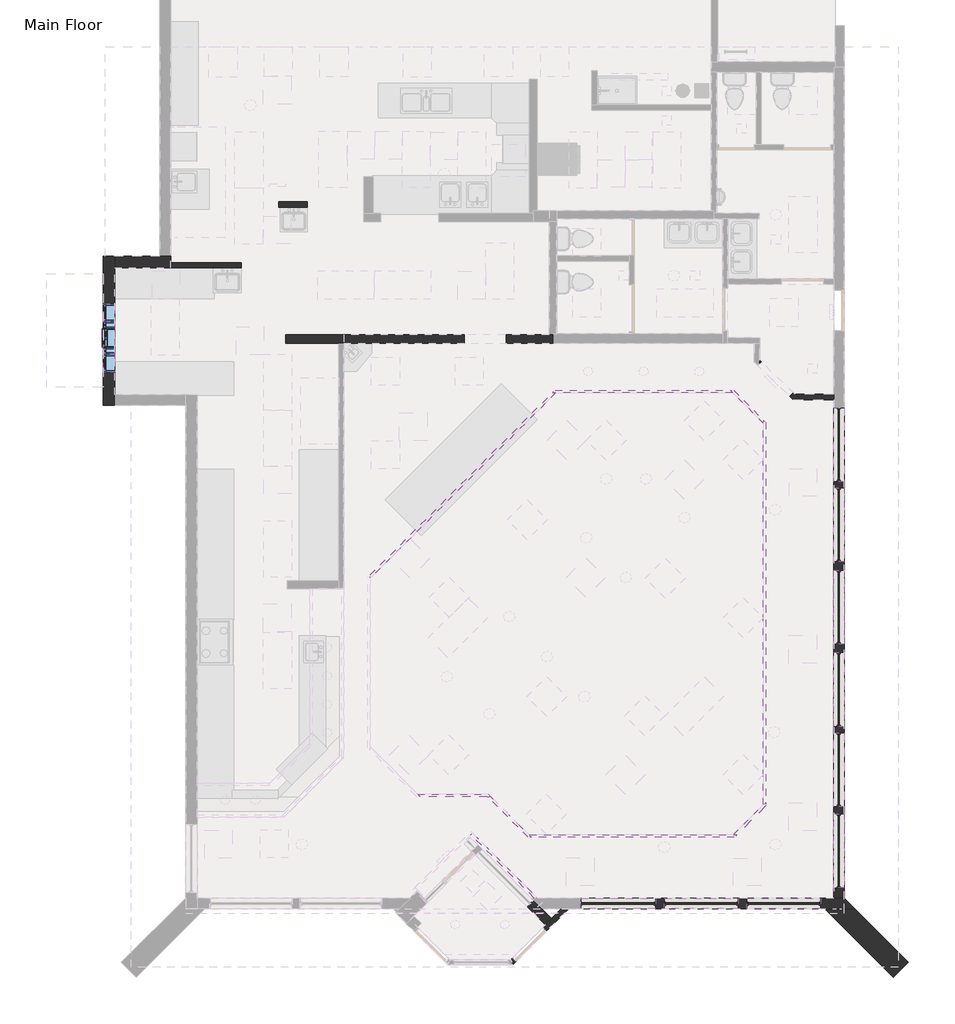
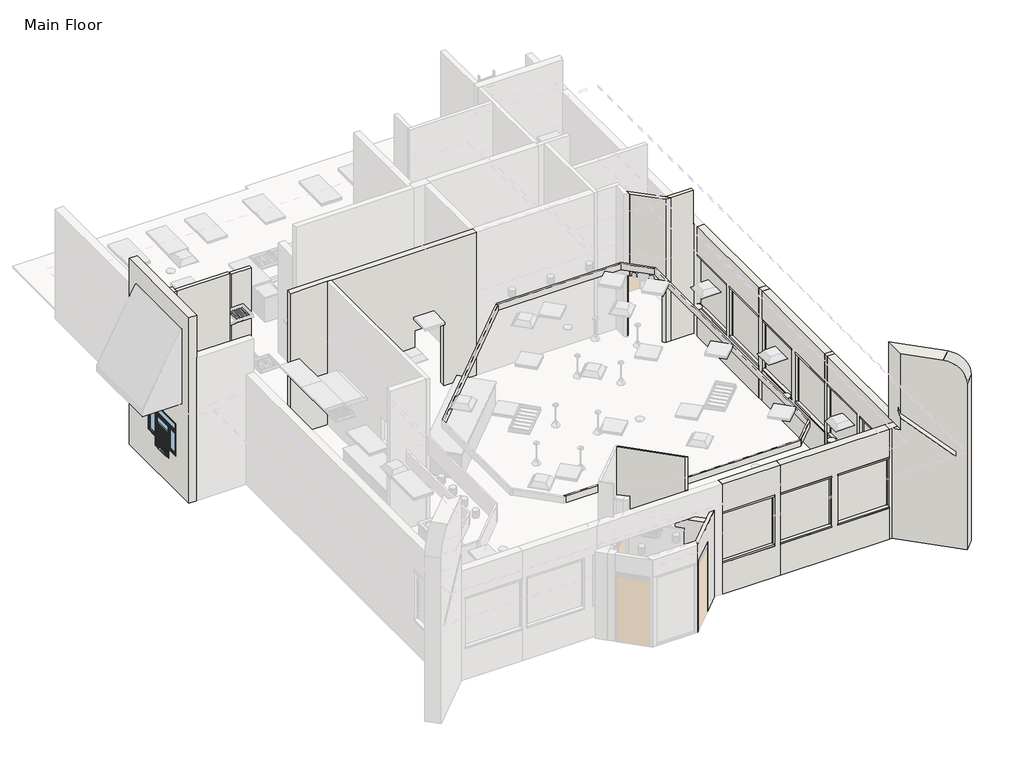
# One storey, part 2 of 6: 55 walls, 7 windows.
"""IFC4 building model written with IfcOpenShell, lengths in millimetres."""

from ifc_helpers import new_model, si_unit, frame, origin, origin_with_axes, place, context, project, spatial, polyline, circle_curve, outline, extrude, faceted_brep, transform, mapped, element, save
from ifc_brep_helpers import plane_surface, cylinder_surface, advanced_brep
from components import default_1_96466d02, default_1_f6c69324, default_1_ff7a0cfc, default_1_48e93cfa, default_1_f4984165

model = new_model("IFC4")

# Units and contexts
model_context = context("Model", 3, world=origin())
ifc_project = project(units=[si_unit("LENGTHUNIT", "METRE", prefix="MILLI")], contexts=[model_context])

# Site, building, storey
site = spatial("IfcSite", under=ifc_project)
building = spatial("IfcBuilding", under=site)
storey = spatial("IfcBuildingStorey", under=building, Name="Main Floor", Elevation=0.0)

# Walls
placement = place(None, origin())
element("IfcWall", 1, ObjectType="Planitar - Generic 9 1/2\"", at=placement, inside=storey, context=model_context, shape_type="Brep", body=[
    faceted_brep([(-7058.9666136, -593.9000796, 0.0), (-7058.9666136, 2619.1999204, 0.0), (-7058.9666136, 2619.1999204, 6096.0), (-7058.9666136, -593.9000796, 6096.0), (-7058.9666136, 499.4898292, 1117.6), (-7058.9666136, 118.4898292, 1117.6), (-7058.9666136, 118.4900166, 2184.4040515), (-7058.9666136, 1591.6900166, 2184.4040515), (-7058.9666136, 1591.6898292, 1117.6), (-7058.9666136, 1210.6898292, 1117.6), (-7058.9666136, 1210.6898292, 812.8), (-7058.9666136, 499.4898292, 812.8), (-7300.2666136, 2619.1999204, 0.0), (-7300.2666136, -593.9000796, 0.0), (-7300.2666136, -593.9000796, 6096.0), (-7300.2666136, 2619.1999204, 6096.0), (-7300.2666136, 118.4898292, 1117.6), (-7300.2666136, 499.4898292, 1117.6), (-7300.2666136, 499.4898292, 812.8), (-7300.2666136, 1210.6898292, 812.8), (-7300.2666136, 1210.6898292, 1117.6), (-7300.2666136, 1591.6898292, 1117.6), (-7300.2666136, 1591.6900166, 2184.4040515), (-7300.2666136, 118.4900166, 2184.4040515)], [[[0, 1, 2, 3], [4, 5, 6, 7, 8, 9, 10, 11]], [[12, 13, 14, 15], [16, 17, 18, 19, 20, 21, 22, 23]], [[1, 0, 13, 12]], [[2, 1, 12, 15]], [[3, 2, 15, 14]], [[0, 3, 14, 13]], [[10, 19, 18, 11]], [[5, 16, 23, 6]], [[16, 5, 4, 17]], [[21, 8, 7, 22]], [[8, 21, 20, 9]], [[6, 23, 22, 7]], [[19, 10, 9, 20]], [[11, 18, 17, 4]]]),
])
element("IfcWall", 2, ObjectType="Planitar - Generic 10\"", at=placement, inside=storey, context=model_context, shape_type="Brep", body=[
    faceted_brep([(-7058.9666136, 2365.1999204, 0.0), (-5846.1166136, 2365.1999204, 0.0), (-5846.1166136, 2365.1999204, 3606.8), (-5966.7666136, 2365.1999204, 3606.8), (-5966.7666136, 2365.1999204, 4699.0), (-7058.9666136, 2365.1999204, 4699.0), (-7058.9666136, 2619.1999204, 0.0), (-7058.9666136, 2619.1999204, 4699.0), (-6087.4166136, 2619.1999204, 4699.0), (-5966.7666136, 2619.1999204, 4699.0), (-5966.7666136, 2619.1999204, 3606.8), (-5846.1166136, 2619.1999204, 3606.8), (-5846.1166136, 2619.1999204, 0.0), (-6087.4166136, 2619.1999204, 0.0), (-5846.1166136, 2479.4999204, 0.0), (-5966.7666136, 2479.4999204, 4699.0), (-5966.7666136, 2479.4999204, 3606.8), (-5846.1166136, 2479.4999204, 3606.8)], [[[0, 1, 2, 3, 4, 5]], [[6, 7, 8, 9, 10, 11, 12, 13]], [[1, 0, 6, 13, 12, 14]], [[5, 4, 15, 9, 8, 7]], [[0, 5, 7, 6]], [[4, 3, 16, 10, 9, 15]], [[10, 16, 3, 2, 17, 11]], [[2, 1, 14, 12, 11, 17]]]),
])
element("IfcWall", 3, ObjectType="Planitar - Generic 9\"", at=placement, inside=storey, context=model_context, shape_type="Brep", body=[
    faceted_brep([(8676.3333864, -11229.6312018, 0.0), (8174.6833864, -11229.6312018, 0.0), (8174.6833864, -11229.6312018, 1016.0), (8174.6833864, -11229.6312018, 2692.4), (8174.6833864, -11229.6312018, 3606.8), (8676.3333864, -11229.6312018, 3606.8), (8904.9333864, -11458.2312018, 0.0), (8904.9333864, -11458.2312018, 3606.8), (8258.3549457, -11458.2312018, 3606.8), (8174.6833864, -11458.2312018, 3606.8), (8174.6833864, -11458.2312018, 0.0), (8258.3549457, -11458.2312018, 0.0)], [[[0, 1, 2, 3, 4, 5]], [[6, 7, 8, 9, 10, 11]], [[1, 0, 6, 11, 10]], [[5, 4, 9, 8, 7]], [[1, 10, 9, 4, 3, 2]], [[0, 5, 7, 6]]]),
])
element("IfcWall", 4, ObjectType="Planitar - Generic 7 1/2\"", at=placement, inside=storey, context=model_context, shape_type="Brep", body=[
    faceted_brep([(2366.4362433, -11671.0761427, 0.0), (2153.5913024, -11458.2312018, 0.0), (1971.9393815, -11276.5792809, 0.0), (1971.9393815, -11276.5792809, 50.8), (1971.9393815, -11276.5792809, 2489.2), (1971.9393815, -11276.5792809, 2540.0), (1924.9913024, -11229.6312018, 2540.0), (1924.9913024, -11229.6312018, 2844.8), (2153.5913024, -11458.2312018, 2844.8), (2366.4362433, -11671.0761427, 2844.8), (2231.7324015, -11805.7799845, 0.0), (2231.7324015, -11805.7799845, 2844.8), (1655.5836188, -11229.6312018, 2844.8), (1655.5836188, -11229.6312018, 2540.0), (1837.2355397, -11411.2831227, 2540.0), (1837.2355397, -11411.2831227, 2489.2), (1837.2355397, -11411.2831227, 50.8), (1837.2355397, -11411.2831227, 0.0)], [[[0, 1, 2, 3, 4, 5, 6, 7, 8, 9]], [[10, 11, 12, 13, 14, 15, 16, 17]], [[2, 1, 0, 10, 17]], [[9, 8, 7, 12, 11]], [[0, 9, 11, 10]], [[2, 17, 16, 15, 14, 5, 4, 3]], [[13, 6, 5, 14]], [[7, 6, 13, 12]]]),
])
element("IfcWall", 5, ObjectType="Planitar - Generic 7\"", at=placement, inside=storey, context=model_context, shape_type="Brep", body=[
    faceted_brep([(-3363.2666136, 745.9499204, 0.0), (-2226.6166136, 745.9499204, 0.0), (-2112.3166136, 745.9499204, 0.0), (478.4833864, 745.9499204, 0.0), (478.4833864, 745.9499204, 2133.6), (1392.8833864, 745.9499204, 2133.6), (1392.8833864, 745.9499204, 0.0), (2396.1833864, 745.9499204, 0.0), (2396.1833864, 745.9499204, 4699.0), (-2112.3166136, 745.9499204, 4699.0), (-2226.6166136, 745.9499204, 4699.0), (-3363.2666136, 745.9499204, 4699.0), (-1483.6666136, 745.9499204, 1752.6), (-924.8666136, 745.9499204, 1752.6), (-924.8666136, 745.9499204, 1295.4), (-1483.6666136, 745.9499204, 1295.4), (478.4833864, 923.7499204, 2133.6), (478.4833864, 923.7499204, 0.0), (-3363.2666136, 923.7499204, 0.0), (-3363.2666136, 923.7499204, 4699.0), (2313.6333864, 923.7499204, 4699.0), (2396.1833864, 923.7499204, 4699.0), (2396.1833864, 923.7499204, 0.0), (2313.6333864, 923.7499204, 0.0), (1392.8833864, 923.7499204, 0.0), (1392.8833864, 923.7499204, 2133.6), (-1483.6666136, 923.7499204, 1752.6), (-1483.6666136, 923.7499204, 1295.4), (-924.8666136, 923.7499204, 1295.4), (-924.8666136, 923.7499204, 1752.6)], [[[0, 1, 2, 3, 4, 5, 6, 7, 8, 9, 10, 11], [12, 13, 14, 15]], [[16, 17, 18, 19, 20, 21, 22, 23, 24, 25], [26, 27, 28, 29]], [[18, 17, 3, 2, 1, 0]], [[24, 23, 22, 7, 6]], [[8, 7, 22, 21]], [[11, 10, 9, 8, 21, 20, 19]], [[0, 11, 19, 18]], [[6, 5, 25, 24]], [[4, 3, 17, 16]], [[5, 4, 16, 25]], [[27, 26, 12, 15]], [[28, 27, 15, 14]], [[29, 28, 14, 13]], [[26, 29, 13, 12]]]),
])
element("IfcWall", 6, ObjectType="Planitar - Generic 4 1/2\"", at=placement, inside=storey, context=model_context, shape_type="Brep", body=[
    faceted_brep([(7573.8358864, -473.2500796, 4699.0), (6853.8833864, 218.1328404, 4699.0), (6853.8833864, 218.1328404, 2032.0), (7504.7650216, -406.9201256, 2032.0), (7504.7650216, -406.9201256, 0.0), (7573.8358864, -473.2500796, 0.0), (6853.8833864, 376.6026708, 4699.0), (7619.8309189, -358.9500796, 4699.0), (7738.8540656, -473.2500796, 4699.0), (7738.8540656, -473.2500796, 0.0), (7619.8309189, -358.9500796, 0.0), (7583.9350262, -324.4786289, 0.0), (7583.9350262, -324.4786289, 2032.0), (6887.7623875, 344.0680763, 2032.0), (6887.7623875, 344.0680763, 0.0), (6853.8833864, 376.6026708, 0.0), (6853.8833864, 308.7891147, 0.0), (6853.8833864, 308.7891147, 2032.0)], [[[0, 1, 2, 3, 4, 5]], [[6, 7, 8, 9, 10, 11, 12, 13, 14, 15]], [[9, 5, 4, 11, 10]], [[15, 14, 16]], [[1, 0, 8, 7, 6]], [[1, 6, 15, 16, 17, 2]], [[0, 5, 9, 8]], [[13, 17, 16, 14]], [[3, 12, 11, 4]], [[17, 13, 12, 3, 2]]]),
])
element("IfcWall", 7, ObjectType="Planitar - Generic 4 1/2\"", at=placement, inside=storey, context=model_context, shape_type="Brep", body=[
    faceted_brep([(7738.8540656, -473.2500796, 0.0), (8447.7333864, -473.2500796, 0.0), (8447.7333864, -473.2500796, 3606.8), (8435.0333864, -473.2500796, 3606.8), (8435.0333864, -473.2500796, 4699.0), (7738.8540656, -473.2500796, 4699.0), (7619.8309189, -358.9500796, 0.0), (7619.8309189, -358.9500796, 4699.0), (8435.0333864, -358.9500796, 4699.0), (8435.0333864, -358.9500796, 3606.8), (8447.7333864, -358.9500796, 3606.8), (8447.7333864, -358.9500796, 0.0)], [[[0, 1, 2, 3, 4, 5]], [[6, 7, 8, 9, 10, 11]], [[1, 0, 6, 11]], [[5, 4, 8, 7]], [[0, 5, 7, 6]], [[9, 3, 2, 10]], [[2, 1, 11, 10]], [[4, 3, 9, 8]]]),
])
element("IfcWall", 8, ObjectType="Planitar - Generic 4 1/2\"", at=placement, inside=storey, context=model_context, shape_type="Brep", body=[
    faceted_brep([(-5846.1166136, 2365.1999204, 0.0), (-4322.1166136, 2365.1999204, 0.0), (-4322.1166136, 2365.1999204, 4699.0), (-5966.7666136, 2365.1999204, 4699.0), (-5966.7666136, 2365.1999204, 3606.8), (-5846.1166136, 2365.1999204, 3606.8), (-5846.1166136, 2479.4999204, 0.0), (-5846.1166136, 2479.4999204, 3606.8), (-5966.7666136, 2479.4999204, 3606.8), (-5966.7666136, 2479.4999204, 4699.0), (-5846.1166136, 2479.4999204, 4699.0), (-4322.1166136, 2479.4999204, 4699.0), (-4322.1166136, 2479.4999204, 0.0)], [[[0, 1, 2, 3, 4, 5]], [[6, 7, 8, 9, 10, 11, 12]], [[1, 0, 6, 12]], [[2, 1, 12, 11]], [[3, 2, 11, 10, 9]], [[4, 3, 9, 8]], [[4, 8, 7, 5]], [[0, 5, 7, 6]]]),
])
element("IfcWall", 9, ObjectType="Planitar - Generic 4 1/2\"", at=placement, inside=storey, context=model_context, shape_type="SweptSolid", body=[
    extrude(outline(polyline([(-2899.7166136, 3679.6499204), (-3522.0166136, 3679.6499204), (-3522.0166136, 3793.9499204), (-2899.7166136, 3793.9499204), (-2899.7166136, 3679.6499204)])), origin_with_axes(), (0.0, 0.0, 1.0), 3606.8),
])
element("IfcWall", 10, ObjectType="Planitar - Generic 1' - 6\"", at=placement, inside=storey, context=model_context, shape_type="AdvancedBrep", body=[
    advanced_brep(
    [(8258.3549457, -11458.2312018, 0.0), (9737.0832662, -12936.9595223, 0.0), (9737.0832662, -12936.9595223, 5435.6), (9270.1099479, -12469.986204, 6096.0), (8435.0333864, -11634.9096425, 6096.0), (8435.0333864, -11634.9096425, 4147.2761444), (9522.5238236, -12722.4000796, 3168.0953567), (9522.5238236, -12722.4000796, 2997.2), (8435.0333864, -11634.9096425, 3976.3807877), (8435.0333864, -11634.9096425, 3606.8), (8258.3549457, -11458.2312018, 3606.8), (10060.3724866, -12613.6703019, 0.0), (8904.9333864, -11458.2312018, 0.0), (8904.9333864, -11458.2312018, 3606.8), (8676.3333864, -11229.6312018, 3606.8), (8435.0333864, -10988.3312018, 3606.8), (8435.0333864, -10988.3312018, 6096.0), (8676.3333864, -11229.6312018, 6096.0), (9593.3991683, -12146.6969836, 6096.0), (10060.3724866, -12613.6703019, 5435.6), (8676.3333864, -11229.6312018, 4050.2042133), (9845.8130439, -12399.1108593, 2997.2), (9845.8130439, -12399.1108593, 3168.0953567), (8676.3333864, -11229.6312018, 4221.09957), (8435.0333864, -11216.9312018, 6096.0), (8435.0333864, -11458.2312018, 6096.0), (8581.6441661, -11458.2312018, 4135.4627703), (9845.8130439, -12722.4000796, 2997.2), (8676.3333864, -11458.2312018, 4050.2042133), (8435.0333864, -11458.2312018, 4135.4627703), (8581.6441661, -11458.2312018, 4306.358127), (8676.3333864, -11458.2312018, 4221.09957), (9845.8130439, -12722.4000796, 3168.0953567), (8435.0333864, -11458.2312018, 4306.358127), (8435.0333864, -11458.2312018, 3606.8), (8435.0333864, -11216.9312018, 3606.8)],
    [
        (0, 1),
        (1, 2),
        (2, 3, circle_curve(frame((9270.1099479, -12469.986204, 5435.6), z_axis=(-0.7071067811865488, -0.7071067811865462, 0.0), x_axis=(-0.7071067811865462, 0.7071067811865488, 0.0)), 660.4)),
        (3, 4),
        (4, 5),
        (5, 6),
        (6, 7),
        (7, 8),
        (8, 9),
        (9, 10),
        (10, 0),
        (11, 12),
        (12, 13),
        (13, 14),
        (14, 15),
        (15, 16),
        (16, 17),
        (17, 18),
        (18, 19, circle_curve(frame((9593.3991683, -12146.6969836, 5435.6), z_axis=(0.7071067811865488, 0.7071067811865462, 0.0), x_axis=(-0.7071067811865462, 0.7071067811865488, 0.0)), 660.4)),
        (19, 11),
        (20, 21),
        (21, 22),
        (22, 23),
        (23, 20),
        (0, 12),
        (11, 1),
        (19, 2),
        (3, 18),
        (16, 24),
        (24, 25),
        (25, 4),
        (26, 27),
        (27, 21),
        (20, 28),
        (28, 26),
        (26, 29),
        (29, 8),
        (7, 27),
        (30, 31),
        (31, 23),
        (22, 32),
        (32, 30),
        (32, 6),
        (5, 33),
        (33, 30),
        (32, 27),
        (31, 28),
        (9, 34),
        (34, 10),
        (34, 13),
        (15, 35),
        (35, 34),
        (29, 33),
    ],
    [
        plane_surface(frame((8299.3495559, -11499.225812, 0.0), z_axis=(-0.7071067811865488, -0.7071067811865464, 0.0), x_axis=(0.7071067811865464, -0.7071067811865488, 0.0))),
        plane_surface(frame((8622.6387762, -11175.9365916, 0.0), z_axis=(0.7071067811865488, 0.7071067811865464, 0.0), x_axis=(-0.7071067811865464, 0.7071067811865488, 0.0))),
        plane_surface(frame((8299.3495559, -11499.225812, 0.0), z_axis=(0.0, 0.0, -1.0000000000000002), x_axis=(0.7071067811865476, 0.7071067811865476, 0.0))),
        plane_surface(frame((9737.0832662, -12936.9595223, 0.0), z_axis=(0.7071067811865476, -0.7071067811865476, 0.0), x_axis=(0.7071067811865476, 0.7071067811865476, 0.0))),
        plane_surface(frame((9270.1099479, -12469.986204, 6096.0), z_axis=(0.0, 0.0, 1.0), x_axis=(0.7071067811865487, 0.7071067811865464, 0.0))),
        cylinder_surface(frame((9593.3991683, -12146.6969836, 5435.6), z_axis=(-0.7071067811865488, -0.7071067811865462, 0.0), x_axis=(-0.7071067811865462, 0.7071067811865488, 0.0)), 660.4),
        plane_surface(frame((9845.8130439, -12722.4000796, 2997.2), z_axis=(0.669130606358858, 0.0, 0.7431448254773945), x_axis=(0.0, 1.0, 0.0))),
        plane_surface(frame((-6697.0166136, -12722.4000796, 2997.2), z_axis=(0.0, -0.669130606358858, 0.7431448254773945), x_axis=(1.0, 0.0, 0.0))),
        plane_surface(frame((9845.8130439, -12722.4000796, 3168.0953567), z_axis=(-0.669130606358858, 0.0, -0.7431448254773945), x_axis=(0.0, 1.0, 0.0))),
        plane_surface(frame((-6697.0166136, -12722.4000796, 3168.0953567), z_axis=(0.0, 0.669130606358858, -0.7431448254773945), x_axis=(1.0, 0.0, 0.0))),
        plane_surface(frame((1574.3982152, -12722.4000796, 2997.2), z_axis=(0.0, 1.0, 0.0), x_axis=(1.0, 0.0, 0.0))),
        plane_surface(frame((9845.8130439, -43.8048611, 2997.2), z_axis=(-1.0, 0.0, 0.0), x_axis=(0.0, 1.0, 0.0))),
        plane_surface(frame((8676.3333864, 11465.3107, 0.0), z_axis=(1.0, 0.0, 0.0), x_axis=(0.0, -1.0, 0.0))),
        plane_surface(frame((8299.3495559, -11499.225812, 3606.8), z_axis=(0.0, 0.0, 1.0), x_axis=(1.0, 0.0, 0.0))),
        plane_surface(frame((8676.3333864, -11458.2312018, 0.0), z_axis=(0.0, 1.0, 0.0), x_axis=(1.0, 0.0, 0.0))),
        plane_surface(frame((8435.0333864, 11788.5999204, 3606.8), z_axis=(-1.0, 0.0, 0.0), x_axis=(0.0, -1.0, 0.0))),
        plane_surface(frame((8299.3495559, -11499.225812, 3606.8), z_axis=(0.0, 0.0, -1.0), x_axis=(1.0, 0.0, 0.0))),
        plane_surface(frame((8676.3333864, -11458.2312018, 0.0), z_axis=(0.0, -1.0, 0.0), x_axis=(-1.0, 0.0, 0.0))),
    ],
    [
        (0, [[1, 2, 3, 4, 5, 6, 7, 8, 9, 10, 11]]),
        (1, [[12, 13, 14, 15, 16, 17, 18, 19, 20], [21, 22, 23, 24]]),
        (2, [[-1, 25, -12, 26]]),
        (3, [[-2, -26, -20, 27]]),
        (4, [[-4, 28, -18, -17, 29, 30, 31]]),
        (5, [[-3, -27, -19, -28]]),
        (6, [[32, 33, -21, 34, 35]]),
        (7, [[-32, 36, 37, -8, 38]]),
        (8, [[39, 40, -23, 41, 42]]),
        (9, [[-42, 43, -6, 44, 45]]),
        (10, [[46, -38, -7, -43]]),
        (11, [[-46, -41, -22, -33]]),
        (12, [[47, -34, -24, -40]]),
        (13, [[-10, 48, 49]]),
        (14, [[-25, -11, -49, 50, -13]]),
        (15, [[51, 52, -48, -9, -37, 53, -44, -5, -31, -30, -29, -16]]),
        (16, [[-15, -14, -50, -52, -51]]),
        (17, [[-35, -47, -39, -45, -53, -36]]),
    ],
),
])
element("IfcWall", 11, ObjectType="Planitar - Generic 4 1/2\"", at=placement, inside=storey, context=model_context, shape_type="Brep", body=[
    faceted_brep([(1600.8623064, -12436.6500796, 2844.8), (2231.7324015, -11805.7799845, 2844.8), (2366.4362433, -11671.0761427, 2844.8), (2579.2811842, -11458.2312018, 2844.8), (2579.2811842, -11458.2312018, 0.0), (2366.4362433, -11671.0761427, 0.0), (2231.7324015, -11805.7799845, 0.0), (2173.3607367, -11864.1516493, 0.0), (2173.3607367, -11864.1516493, 2286.0), (1600.8623064, -12436.6500796, 2286.0), (1526.782296, -12510.73009, 2286.0), (1526.782296, -12510.73009, 0.0), (1486.5623064, -12550.9500796, 0.0), (1486.5623064, -12550.9500796, 2286.0), (2740.9257944, -11458.2312018, 2844.8), (1533.9069166, -12665.2500796, 2844.8), (1533.9069166, -12665.2500796, 2286.0), (1533.9069166, -12665.2500796, 0.0), (1607.6046011, -12591.5523951, 0.0), (1607.6046011, -12591.5523951, 2286.0), (2254.1830418, -11944.9739544, 2286.0), (2254.1830418, -11944.9739544, 0.0), (2740.9257944, -11458.2312018, 0.0), (1567.297999, -12551.245793, 2286.0)], [[[0, 1, 2, 3, 4, 5, 6, 7, 8, 9]], [[10, 11, 12, 13]], [[14, 15, 16, 17, 18, 19, 20, 21, 22]], [[4, 22, 21, 7, 6, 5]], [[17, 12, 11, 18]], [[3, 2, 1, 0, 15, 14]], [[13, 16, 23, 10]], [[12, 17, 16, 13]], [[0, 9, 23, 16, 15]], [[4, 3, 14, 22]], [[7, 21, 20, 8]], [[10, 23, 19, 18, 11]], [[19, 23, 9, 8, 20]]]),
])
element("IfcWall", 12, ObjectType="Planitar - Generic 2\"", at=placement, inside=storey, context=model_context, shape_type="Brep", body=[
    faceted_brep([(-468.7505987, -9035.0045545, 2755.9), (983.4073523, -9035.0045545, 2755.9), (1055.2494013, -9035.0045545, 2755.9), (1055.2494013, -9035.0045545, 2959.1), (983.4073523, -9035.0045545, 2959.1), (-468.7505987, -9035.0045545, 2959.1), (-519.5505987, -8984.2045545, 2755.9), (-519.5505987, -8984.2045545, 2959.1), (1004.4494013, -8984.2045545, 2959.1), (1004.4494013, -8984.2045545, 2755.9)], [[[0, 1, 2, 3, 4, 5]], [[6, 7, 8, 9]], [[2, 1, 0, 6, 9]], [[5, 4, 3, 8, 7]], [[0, 5, 7, 6]], [[3, 2, 9, 8]]]),
])
element("IfcWall", 13, ObjectType="Planitar - Generic 2\"", at=placement, inside=storey, context=model_context, shape_type="Brep", body=[
    faceted_brep([(983.4073523, -9035.0045545, 2755.9), (1863.4724522, -9915.0696543, 2755.9), (1863.4724522, -9915.0696543, 2959.1), (983.4073523, -9035.0045545, 2959.1), (1055.2494013, -9035.0045545, 2755.9), (1055.2494013, -9035.0045545, 2959.1), (1884.5145011, -9864.2696543, 2959.1), (1935.3145011, -9915.0696543, 2959.1), (1935.3145011, -9915.0696543, 2755.9), (1884.5145011, -9864.2696543, 2755.9)], [[[0, 1, 2, 3]], [[4, 5, 6, 7, 8, 9]], [[1, 0, 4, 9, 8]], [[3, 2, 7, 6, 5]], [[0, 3, 5, 4]], [[2, 1, 8, 7]]]),
])
element("IfcWall", 14, ObjectType="Planitar - Generic 2\"", at=placement, inside=storey, context=model_context, shape_type="Brep", body=[
    faceted_brep([(1935.3145011, -9915.0696543, 2755.9), (6310.4058607, -9915.0696543, 2755.9), (6310.4058607, -9915.0696543, 2959.1), (1935.3145011, -9915.0696543, 2959.1), (1884.5145011, -9864.2696543, 2755.9), (1884.5145011, -9864.2696543, 2959.1), (6289.3638117, -9864.2696543, 2959.1), (6361.2058607, -9864.2696543, 2959.1), (6361.2058607, -9864.2696543, 2755.9), (6289.3638117, -9864.2696543, 2755.9)], [[[0, 1, 2, 3]], [[4, 5, 6, 7, 8, 9]], [[1, 0, 4, 9, 8]], [[3, 2, 7, 6, 5]], [[0, 3, 5, 4]], [[2, 1, 8, 7]]]),
])
element("IfcWall", 15, ObjectType="Planitar - Generic 2\"", at=placement, inside=storey, context=model_context, shape_type="Brep", body=[
    faceted_brep([(6361.2058607, -9864.2696543, 2755.9), (6987.2333864, -9238.2421286, 2755.9), (6987.2333864, -9238.2421286, 2959.1), (6361.2058607, -9864.2696543, 2959.1), (6289.3638117, -9864.2696543, 2755.9), (6289.3638117, -9864.2696543, 2959.1), (6936.4333864, -9217.2000796, 2959.1), (6987.2333864, -9166.4000796, 2959.1), (6987.2333864, -9166.4000796, 2755.9), (6936.4333864, -9217.2000796, 2755.9)], [[[0, 1, 2, 3]], [[4, 5, 6, 7, 8, 9]], [[1, 0, 4, 9, 8]], [[3, 2, 7, 6, 5]], [[0, 3, 5, 4]], [[2, 1, 8, 7]]]),
])
element("IfcWall", 16, ObjectType="Planitar - Generic 2\"", at=placement, inside=storey, context=model_context, shape_type="Brep", body=[
    faceted_brep([(6987.2333864, -9166.4000796, 2755.9), (6987.2333864, -966.5580307, 2755.9), (6987.2333864, -966.5580307, 2959.1), (6987.2333864, -9166.4000796, 2959.1), (6936.4333864, -9217.2000796, 2755.9), (6936.4333864, -9217.2000796, 2959.1), (6936.4333864, -987.6000796, 2959.1), (6936.4333864, -915.7580307, 2959.1), (6936.4333864, -915.7580307, 2755.9), (6936.4333864, -987.6000796, 2755.9)], [[[0, 1, 2, 3]], [[4, 5, 6, 7, 8, 9]], [[1, 0, 4, 9, 8]], [[3, 2, 7, 6, 5]], [[0, 3, 5, 4]], [[2, 1, 8, 7]]]),
])
element("IfcWall", 17, ObjectType="Planitar - Generic 2\"", at=placement, inside=storey, context=model_context, shape_type="Brep", body=[
    faceted_brep([(6936.4333864, -915.7580307, 2755.9), (6292.9364824, -272.2611267, 2755.9), (6292.9364824, -272.2611267, 2959.1), (6936.4333864, -915.7580307, 2959.1), (6936.4333864, -987.6000796, 2755.9), (6936.4333864, -987.6000796, 2959.1), (6271.8944335, -323.0611267, 2959.1), (6221.0944335, -272.2611267, 2959.1), (6221.0944335, -272.2611267, 2755.9), (6271.8944335, -323.0611267, 2755.9)], [[[0, 1, 2, 3]], [[4, 5, 6, 7, 8, 9]], [[1, 0, 4, 9, 8]], [[3, 2, 7, 6, 5]], [[0, 3, 5, 4]], [[2, 1, 8, 7]]]),
])
element("IfcWall", 18, ObjectType="Planitar - Generic 2\"", at=placement, inside=storey, context=model_context, shape_type="Brep", body=[
    faceted_brep([(6221.0944335, -272.2611267, 2755.9), (2440.8523845, -272.2611267, 2755.9), (2440.8523845, -272.2611267, 2959.1), (6221.0944335, -272.2611267, 2959.1), (6271.8944335, -323.0611267, 2755.9), (6271.8944335, -323.0611267, 2959.1), (2461.8944335, -323.0611267, 2959.1), (2390.0523845, -323.0611267, 2959.1), (2390.0523845, -323.0611267, 2755.9), (2461.8944335, -323.0611267, 2755.9)], [[[0, 1, 2, 3]], [[4, 5, 6, 7, 8, 9]], [[1, 0, 4, 9, 8]], [[3, 2, 7, 6, 5]], [[0, 3, 5, 4]], [[2, 1, 8, 7]]]),
])
element("IfcWall", 19, ObjectType="Planitar - Generic 2\"", at=placement, inside=storey, context=model_context, shape_type="SweptSolid", body=[
    extrude(outline(polyline([(-1543.2997965, -4256.4133077), (2390.0523845, -323.0611267), (2461.8944335, -323.0611267), (-1543.2997965, -4328.2553567), (-1543.2997965, -4256.4133077)])), frame((0.0, 0.0, 2755.9), z_axis=(0.0, 0.0, 1.0), x_axis=(1.0, 0.0, 0.0)), (0.0, 0.0, 1.0), 203.2),
])
element("IfcWall", 20, ObjectType="Planitar - Generic 2\"", at=placement, inside=storey, context=model_context, shape_type="Brep", body=[
    faceted_brep([(628.4375803, -9861.2354307, 2540.0), (1996.8333514, -11229.6312018, 2540.0), (1996.8333514, -11229.6312018, 3606.8), (1984.1333514, -11216.9312018, 3606.8), (1984.1333514, -11216.9312018, 4699.0), (628.4375803, -9861.2354307, 4699.0), (664.3586048, -9825.3144062, 2540.0), (664.3586048, -9825.3144062, 4699.0), (2055.9754004, -11216.9312018, 4699.0), (2055.9754004, -11216.9312018, 3606.8), (2068.6754004, -11229.6312018, 3606.8), (2068.6754004, -11229.6312018, 2540.0)], [[[0, 1, 2, 3, 4, 5]], [[6, 7, 8, 9, 10, 11]], [[1, 0, 6, 11]], [[5, 4, 8, 7]], [[0, 5, 7, 6]], [[9, 3, 2, 10]], [[2, 1, 11, 10]], [[4, 3, 9, 8]]]),
])
element("IfcWall", 21, ObjectType="Planitar - Generic 9\"", at=placement, inside=storey, context=model_context, shape_type="Brep", body=[
    faceted_brep([(4794.3563385, -11229.6312018, 3606.8), (4794.3563385, -11229.6312018, 2692.4), (4794.3563385, -11229.6312018, 1016.0), (4794.3563385, -11229.6312018, 0.0), (2990.9563385, -11229.6312018, 0.0), (2990.9563385, -11229.6312018, 1016.0), (4616.5563385, -11229.6312018, 1016.0), (4616.5563385, -11229.6312018, 2692.4), (2990.9563385, -11229.6312018, 2692.4), (2990.9563385, -11229.6312018, 3606.8), (4794.3563385, -11458.2312018, 0.0), (4794.3563385, -11458.2312018, 1016.0), (4794.3563385, -11458.2312018, 2692.4), (4794.3563385, -11458.2312018, 3606.8), (2990.9563385, -11458.2312018, 3606.8), (2990.9563385, -11458.2312018, 2692.4), (4616.5563385, -11458.2312018, 2692.4), (4616.5563385, -11458.2312018, 1016.0), (2990.9563385, -11458.2312018, 1016.0), (2990.9563385, -11458.2312018, 0.0)], [[[0, 1, 2, 3, 4, 5, 6, 7, 8, 9]], [[10, 11, 12, 13, 14, 15, 16, 17, 18, 19]], [[4, 3, 10, 19]], [[7, 6, 17, 16]], [[0, 9, 14, 13]], [[5, 4, 19, 18]], [[6, 5, 18, 17]], [[8, 7, 16, 15]], [[9, 8, 15, 14]], [[0, 13, 12, 11, 10, 3, 2, 1]]]),
])
element("IfcWall", 22, ObjectType="Planitar - Generic 9\"", at=placement, inside=storey, context=model_context, shape_type="SweptSolid", body=[
    extrude(outline(polyline([(1016.0, 6572.3563385), (2692.4, 6572.3563385), (2692.4, 8174.6833864), (3606.8, 8174.6833864), (3606.8, 4794.3563385), (2692.4, 4794.3563385), (2692.4, 6394.5563385), (1016.0, 6394.5563385), (1016.0, 4794.3563385), (0.0, 4794.3563385), (0.0, 8174.6833864), (1016.0, 8174.6833864), (1016.0, 6572.3563385)])), frame((0.0, -11458.2312018, 0.0), z_axis=(0.0, 1.0, 0.0), x_axis=(0.0, 0.0, 1.0)), (0.0, 0.0, 1.0), 228.6),
])
element("IfcWall", 23, ObjectType="Planitar - Generic 9\"", at=placement, inside=storey, context=model_context, shape_type="SweptSolid", body=[
    extrude(outline(polyline([(-9255.3000796, 1016.0), (-7655.1000796, 1016.0), (-7655.1000796, 0.0), (-11229.6312018, 0.0), (-11229.6312018, 3606.8), (-7655.1000796, 3606.8), (-7655.1000796, 2692.4), (-9255.3000796, 2692.4), (-9255.3000796, 1016.0)]), holes=[polyline([(-9407.7000796, 2692.4), (-11007.9000796, 2692.4), (-11007.9000796, 1016.0), (-9407.7000796, 1016.0), (-9407.7000796, 2692.4)])]), frame((8447.7333864, 0.0, 0.0), z_axis=(1.0, 0.0, 0.0), x_axis=(0.0, 1.0, 0.0)), (0.0, 0.0, 1.0), 228.6),
])
element("IfcWall", 24, ObjectType="Planitar - Generic 9\"", at=placement, inside=storey, context=model_context, shape_type="Brep", body=[
    faceted_brep([(8447.7333864, -7528.1000796, 3606.8), (8447.7333864, -7528.1000796, 2692.4), (8447.7333864, -7528.1000796, 1016.0), (8447.7333864, -7528.1000796, 0.0), (8447.7333864, -7655.1000796, 0.0), (8447.7333864, -7655.1000796, 1016.0), (8447.7333864, -7655.1000796, 2692.4), (8447.7333864, -7655.1000796, 3606.8), (8676.3333864, -7528.1000796, 0.0), (8676.3333864, -7528.1000796, 1016.0), (8676.3333864, -7528.1000796, 2692.4), (8676.3333864, -7528.1000796, 3606.8), (8676.3333864, -7655.1000796, 3606.8), (8676.3333864, -7655.1000796, 2692.4), (8676.3333864, -7655.1000796, 1016.0), (8676.3333864, -7655.1000796, 0.0)], [[[0, 1, 2, 3, 4, 5, 6, 7]], [[8, 9, 10, 11, 12, 13, 14, 15]], [[4, 3, 8, 15]], [[0, 7, 12, 11]], [[4, 15, 14, 13, 12, 7, 6, 5]], [[0, 11, 10, 9, 8, 3, 2, 1]]]),
])
element("IfcWall", 25, ObjectType="Planitar - Generic 9\"", at=placement, inside=storey, context=model_context, shape_type="SweptSolid", body=[
    extrude(outline(polyline([(-5750.1000796, 1016.0), (-4149.9000796, 1016.0), (-4149.9000796, 0.0), (-7528.1000796, 0.0), (-7528.1000796, 1016.0), (-5927.9000796, 1016.0), (-5927.9000796, 2692.4), (-7528.1000796, 2692.4), (-7528.1000796, 3606.8), (-4149.9000796, 3606.8), (-4149.9000796, 2692.4), (-5750.1000796, 2692.4), (-5750.1000796, 1016.0)])), frame((8447.7333864, 0.0, 0.0), z_axis=(1.0, 0.0, 0.0), x_axis=(0.0, 1.0, 0.0)), (0.0, 0.0, 1.0), 228.6),
])
element("IfcWall", 26, ObjectType="Planitar - Generic 9\"", at=placement, inside=storey, context=model_context, shape_type="Brep", body=[
    faceted_brep([(8447.7333864, -3972.1000796, 3606.8), (8447.7333864, -3972.1000796, 2692.4), (8447.7333864, -3972.1000796, 1016.0), (8447.7333864, -3972.1000796, 0.0), (8447.7333864, -4149.9000796, 0.0), (8447.7333864, -4149.9000796, 1016.0), (8447.7333864, -4149.9000796, 2692.4), (8447.7333864, -4149.9000796, 3606.8), (8676.3333864, -3972.1000796, 0.0), (8676.3333864, -3972.1000796, 1016.0), (8676.3333864, -3972.1000796, 2692.4), (8676.3333864, -3972.1000796, 3606.8), (8676.3333864, -4149.9000796, 3606.8), (8676.3333864, -4149.9000796, 2692.4), (8676.3333864, -4149.9000796, 1016.0), (8676.3333864, -4149.9000796, 0.0)], [[[0, 1, 2, 3, 4, 5, 6, 7]], [[8, 9, 10, 11, 12, 13, 14, 15]], [[4, 3, 8, 15]], [[0, 7, 12, 11]], [[4, 15, 14, 13, 12, 7, 6, 5]], [[0, 11, 10, 9, 8, 3, 2, 1]]]),
])
element("IfcWall", 27, ObjectType="Planitar - Generic 9\"", at=placement, inside=storey, context=model_context, shape_type="SweptSolid", body=[
    extrude(outline(polyline([(-2244.9000796, 1016.0), (-644.7000796, 1016.0), (-644.7000796, 0.0), (-3972.1000796, 0.0), (-3972.1000796, 1016.0), (-2371.9000796, 1016.0), (-2371.9000796, 2692.4), (-3972.1000796, 2692.4), (-3972.1000796, 3606.8), (-644.7000796, 3606.8), (-644.7000796, 2692.4), (-2244.9000796, 2692.4), (-2244.9000796, 1016.0)])), frame((8447.7333864, 0.0, 0.0), z_axis=(1.0, 0.0, 0.0), x_axis=(0.0, 1.0, 0.0)), (0.0, 0.0, 1.0), 228.6),
])
element("IfcWall", 28, ObjectType="Planitar - Generic 9\"", at=placement, inside=storey, context=model_context, shape_type="SweptSolid", body=[
    extrude(outline(polyline([(4616.5563385, -11458.2312018), (2990.9563385, -11458.2312018), (2990.9563385, -11229.6312018), (4616.5563385, -11229.6312018), (4616.5563385, -11458.2312018)])), frame((0.0, 0.0, 1016.0), z_axis=(0.0, 0.0, 1.0), x_axis=(1.0, 0.0, 0.0)), (0.0, 0.0, 1.0), 50.8),
])
element("IfcWall", 29, ObjectType="Planitar - Curtain wall (Curved)", at=placement, inside=storey, context=model_context, shape_type="SweptSolid", body=[
    extrude(outline(polyline([(3022.7063385, -11356.6312018), (3022.7063385, -11331.2312018), (4584.8063385, -11331.2312018), (4584.8063385, -11356.6312018), (3022.7063385, -11356.6312018)])), frame((0.0, 0.0, 1066.8), z_axis=(0.0, 0.0, 1.0), x_axis=(1.0, 0.0, 0.0)), (0.0, 0.0, 1.0), 1574.8),
])
element("IfcWall", 30, ObjectType="Planitar - Generic 9\"", at=placement, inside=storey, context=model_context, shape_type="SweptSolid", body=[
    extrude(outline(polyline([(4616.5563385, -11458.2312018), (2990.9563385, -11458.2312018), (2990.9563385, -11229.6312018), (4616.5563385, -11229.6312018), (4616.5563385, -11458.2312018)])), frame((0.0, 0.0, 2641.6), z_axis=(0.0, 0.0, 1.0), x_axis=(1.0, 0.0, 0.0)), (0.0, 0.0, 1.0), 50.8),
])
element("IfcWall", 31, ObjectType="Planitar - Generic 9\"", at=placement, inside=storey, context=model_context, shape_type="SweptSolid", body=[
    extrude(outline(polyline([(6394.5563385, -11458.2312018), (4794.3563385, -11458.2312018), (4794.3563385, -11229.6312018), (6394.5563385, -11229.6312018), (6394.5563385, -11458.2312018)])), frame((0.0, 0.0, 1016.0), z_axis=(0.0, 0.0, 1.0), x_axis=(1.0, 0.0, 0.0)), (0.0, 0.0, 1.0), 50.8),
])
element("IfcWall", 32, ObjectType="Planitar - Curtain wall (Curved)", at=placement, inside=storey, context=model_context, shape_type="SweptSolid", body=[
    extrude(outline(polyline([(4826.1063385, -11356.6312018), (4826.1063385, -11331.2312018), (6362.8063385, -11331.2312018), (6362.8063385, -11356.6312018), (4826.1063385, -11356.6312018)])), frame((0.0, 0.0, 1066.8), z_axis=(0.0, 0.0, 1.0), x_axis=(1.0, 0.0, 0.0)), (0.0, 0.0, 1.0), 1574.8),
])
element("IfcWall", 33, ObjectType="Planitar - Generic 9\"", at=placement, inside=storey, context=model_context, shape_type="SweptSolid", body=[
    extrude(outline(polyline([(6394.5563385, -11458.2312018), (4794.3563385, -11458.2312018), (4794.3563385, -11229.6312018), (6394.5563385, -11229.6312018), (6394.5563385, -11458.2312018)])), frame((0.0, 0.0, 2641.6), z_axis=(0.0, 0.0, 1.0), x_axis=(1.0, 0.0, 0.0)), (0.0, 0.0, 1.0), 50.8),
])
element("IfcWall", 34, ObjectType="Planitar - Generic 9\"", at=placement, inside=storey, context=model_context, shape_type="SweptSolid", body=[
    extrude(outline(polyline([(8174.6833864, -11458.2312018), (6572.3563385, -11458.2312018), (6572.3563385, -11229.6312018), (8174.6833864, -11229.6312018), (8174.6833864, -11458.2312018)])), frame((0.0, 0.0, 1016.0), z_axis=(0.0, 0.0, 1.0), x_axis=(1.0, 0.0, 0.0)), (0.0, 0.0, 1.0), 50.8),
])
element("IfcWall", 35, ObjectType="Planitar - Curtain wall (Curved)", at=placement, inside=storey, context=model_context, shape_type="SweptSolid", body=[
    extrude(outline(polyline([(6604.1063385, -11356.6312018), (6604.1063385, -11331.2312018), (8142.9333864, -11331.2312018), (8142.9333864, -11356.6312018), (6604.1063385, -11356.6312018)])), frame((0.0, 0.0, 1066.8), z_axis=(0.0, 0.0, 1.0), x_axis=(1.0, 0.0, 0.0)), (0.0, 0.0, 1.0), 1574.8),
])
element("IfcWall", 36, ObjectType="Planitar - Generic 9\"", at=placement, inside=storey, context=model_context, shape_type="SweptSolid", body=[
    extrude(outline(polyline([(8174.6833864, -11458.2312018), (6572.3563385, -11458.2312018), (6572.3563385, -11229.6312018), (8174.6833864, -11229.6312018), (8174.6833864, -11458.2312018)])), frame((0.0, 0.0, 2641.6), z_axis=(0.0, 0.0, 1.0), x_axis=(1.0, 0.0, 0.0)), (0.0, 0.0, 1.0), 50.8),
])
element("IfcWall", 37, ObjectType="Planitar - Generic 9\"", at=placement, inside=storey, context=model_context, shape_type="SweptSolid", body=[
    extrude(outline(polyline([(8676.3333864, -9407.7000796), (8676.3333864, -11007.9000796), (8447.7333864, -11007.9000796), (8447.7333864, -9407.7000796), (8676.3333864, -9407.7000796)])), frame((0.0, 0.0, 1016.0), z_axis=(0.0, 0.0, 1.0), x_axis=(1.0, 0.0, 0.0)), (0.0, 0.0, 1.0), 50.8),
])
element("IfcWall", 38, ObjectType="Planitar - Curtain wall (Curved)", at=placement, inside=storey, context=model_context, shape_type="SweptSolid", body=[
    extrude(outline(polyline([(8549.3333864, -9439.4500796), (8574.7333864, -9439.4500796), (8574.7333864, -10976.1500796), (8549.3333864, -10976.1500796), (8549.3333864, -9439.4500796)])), frame((0.0, 0.0, 1066.8), z_axis=(0.0, 0.0, 1.0), x_axis=(1.0, 0.0, 0.0)), (0.0, 0.0, 1.0), 1574.8),
])
element("IfcWall", 39, ObjectType="Planitar - Generic 9\"", at=placement, inside=storey, context=model_context, shape_type="SweptSolid", body=[
    extrude(outline(polyline([(8676.3333864, -9407.7000796), (8676.3333864, -11007.9000796), (8447.7333864, -11007.9000796), (8447.7333864, -9407.7000796), (8676.3333864, -9407.7000796)])), frame((0.0, 0.0, 2641.6), z_axis=(0.0, 0.0, 1.0), x_axis=(1.0, 0.0, 0.0)), (0.0, 0.0, 1.0), 50.8),
])
element("IfcWall", 40, ObjectType="Planitar - Generic 9\"", at=placement, inside=storey, context=model_context, shape_type="SweptSolid", body=[
    extrude(outline(polyline([(8676.3333864, -7655.1000796), (8676.3333864, -9255.3000796), (8447.7333864, -9255.3000796), (8447.7333864, -7655.1000796), (8676.3333864, -7655.1000796)])), frame((0.0, 0.0, 1016.0), z_axis=(0.0, 0.0, 1.0), x_axis=(1.0, 0.0, 0.0)), (0.0, 0.0, 1.0), 50.8),
])
element("IfcWall", 41, ObjectType="Planitar - Curtain wall (Curved)", at=placement, inside=storey, context=model_context, shape_type="SweptSolid", body=[
    extrude(outline(polyline([(8549.3333864, -7686.8500796), (8574.7333864, -7686.8500796), (8574.7333864, -9223.5500796), (8549.3333864, -9223.5500796), (8549.3333864, -7686.8500796)])), frame((0.0, 0.0, 1066.8), z_axis=(0.0, 0.0, 1.0), x_axis=(1.0, 0.0, 0.0)), (0.0, 0.0, 1.0), 1574.8),
])
element("IfcWall", 42, ObjectType="Planitar - Generic 9\"", at=placement, inside=storey, context=model_context, shape_type="SweptSolid", body=[
    extrude(outline(polyline([(8676.3333864, -7655.1000796), (8676.3333864, -9255.3000796), (8447.7333864, -9255.3000796), (8447.7333864, -7655.1000796), (8676.3333864, -7655.1000796)])), frame((0.0, 0.0, 2641.6), z_axis=(0.0, 0.0, 1.0), x_axis=(1.0, 0.0, 0.0)), (0.0, 0.0, 1.0), 50.8),
])
element("IfcWall", 43, ObjectType="Planitar - Generic 9\"", at=placement, inside=storey, context=model_context, shape_type="SweptSolid", body=[
    extrude(outline(polyline([(8676.3333864, -5927.9000796), (8676.3333864, -7528.1000796), (8447.7333864, -7528.1000796), (8447.7333864, -5927.9000796), (8676.3333864, -5927.9000796)])), frame((0.0, 0.0, 1016.0), z_axis=(0.0, 0.0, 1.0), x_axis=(1.0, 0.0, 0.0)), (0.0, 0.0, 1.0), 50.8),
])
element("IfcWall", 44, ObjectType="Planitar - Curtain wall (Curved)", at=placement, inside=storey, context=model_context, shape_type="SweptSolid", body=[
    extrude(outline(polyline([(8549.3333864, -5959.6500796), (8574.7333864, -5959.6500796), (8574.7333864, -7496.3500796), (8549.3333864, -7496.3500796), (8549.3333864, -5959.6500796)])), frame((0.0, 0.0, 1066.8), z_axis=(0.0, 0.0, 1.0), x_axis=(1.0, 0.0, 0.0)), (0.0, 0.0, 1.0), 1574.8),
])
element("IfcWall", 45, ObjectType="Planitar - Generic 9\"", at=placement, inside=storey, context=model_context, shape_type="SweptSolid", body=[
    extrude(outline(polyline([(8676.3333864, -5927.9000796), (8676.3333864, -7528.1000796), (8447.7333864, -7528.1000796), (8447.7333864, -5927.9000796), (8676.3333864, -5927.9000796)])), frame((0.0, 0.0, 2641.6), z_axis=(0.0, 0.0, 1.0), x_axis=(1.0, 0.0, 0.0)), (0.0, 0.0, 1.0), 50.8),
])
element("IfcWall", 46, ObjectType="Planitar - Generic 9\"", at=placement, inside=storey, context=model_context, shape_type="SweptSolid", body=[
    extrude(outline(polyline([(8676.3333864, -4149.9000796), (8676.3333864, -5750.1000796), (8447.7333864, -5750.1000796), (8447.7333864, -4149.9000796), (8676.3333864, -4149.9000796)])), frame((0.0, 0.0, 1016.0), z_axis=(0.0, 0.0, 1.0), x_axis=(1.0, 0.0, 0.0)), (0.0, 0.0, 1.0), 50.8),
])
element("IfcWall", 47, ObjectType="Planitar - Curtain wall (Curved)", at=placement, inside=storey, context=model_context, shape_type="SweptSolid", body=[
    extrude(outline(polyline([(8549.3333864, -4181.6500796), (8574.7333864, -4181.6500796), (8574.7333864, -5718.3500796), (8549.3333864, -5718.3500796), (8549.3333864, -4181.6500796)])), frame((0.0, 0.0, 1066.8), z_axis=(0.0, 0.0, 1.0), x_axis=(1.0, 0.0, 0.0)), (0.0, 0.0, 1.0), 1574.8),
])
element("IfcWall", 48, ObjectType="Planitar - Generic 9\"", at=placement, inside=storey, context=model_context, shape_type="SweptSolid", body=[
    extrude(outline(polyline([(8676.3333864, -4149.9000796), (8676.3333864, -5750.1000796), (8447.7333864, -5750.1000796), (8447.7333864, -4149.9000796), (8676.3333864, -4149.9000796)])), frame((0.0, 0.0, 2641.6), z_axis=(0.0, 0.0, 1.0), x_axis=(1.0, 0.0, 0.0)), (0.0, 0.0, 1.0), 50.8),
])
element("IfcWall", 49, ObjectType="Planitar - Generic 9\"", at=placement, inside=storey, context=model_context, shape_type="SweptSolid", body=[
    extrude(outline(polyline([(8676.3333864, -2371.9000796), (8676.3333864, -3972.1000796), (8447.7333864, -3972.1000796), (8447.7333864, -2371.9000796), (8676.3333864, -2371.9000796)])), frame((0.0, 0.0, 1016.0), z_axis=(0.0, 0.0, 1.0), x_axis=(1.0, 0.0, 0.0)), (0.0, 0.0, 1.0), 50.8),
])
element("IfcWall", 50, ObjectType="Planitar - Curtain wall (Curved)", at=placement, inside=storey, context=model_context, shape_type="SweptSolid", body=[
    extrude(outline(polyline([(8549.3333864, -2403.6500796), (8574.7333864, -2403.6500796), (8574.7333864, -3940.3500796), (8549.3333864, -3940.3500796), (8549.3333864, -2403.6500796)])), frame((0.0, 0.0, 1066.8), z_axis=(0.0, 0.0, 1.0), x_axis=(1.0, 0.0, 0.0)), (0.0, 0.0, 1.0), 1574.8),
])
element("IfcWall", 51, ObjectType="Planitar - Generic 9\"", at=placement, inside=storey, context=model_context, shape_type="SweptSolid", body=[
    extrude(outline(polyline([(8676.3333864, -2371.9000796), (8676.3333864, -3972.1000796), (8447.7333864, -3972.1000796), (8447.7333864, -2371.9000796), (8676.3333864, -2371.9000796)])), frame((0.0, 0.0, 2641.6), z_axis=(0.0, 0.0, 1.0), x_axis=(1.0, 0.0, 0.0)), (0.0, 0.0, 1.0), 50.8),
])
element("IfcWall", 52, ObjectType="Planitar - Generic 9\"", at=placement, inside=storey, context=model_context, shape_type="SweptSolid", body=[
    extrude(outline(polyline([(8676.3333864, -644.7000796), (8676.3333864, -2244.9000796), (8447.7333864, -2244.9000796), (8447.7333864, -644.7000796), (8676.3333864, -644.7000796)])), frame((0.0, 0.0, 1016.0), z_axis=(0.0, 0.0, 1.0), x_axis=(1.0, 0.0, 0.0)), (0.0, 0.0, 1.0), 50.8),
])
element("IfcWall", 53, ObjectType="Planitar - Curtain wall (Curved)", at=placement, inside=storey, context=model_context, shape_type="SweptSolid", body=[
    extrude(outline(polyline([(8574.7333864, -2213.1500796), (8549.3333864, -2213.1500796), (8549.3333864, -676.4500796), (8574.7333864, -676.4500796), (8574.7333864, -2213.1500796)])), frame((0.0, 0.0, 1066.8), z_axis=(0.0, 0.0, 1.0), x_axis=(1.0, 0.0, 0.0)), (0.0, 0.0, 1.0), 1574.8),
])
element("IfcWall", 54, ObjectType="Planitar - Generic 9\"", at=placement, inside=storey, context=model_context, shape_type="SweptSolid", body=[
    extrude(outline(polyline([(8676.3333864, -644.7000796), (8676.3333864, -2244.9000796), (8447.7333864, -2244.9000796), (8447.7333864, -644.7000796), (8676.3333864, -644.7000796)])), frame((0.0, 0.0, 2641.6), z_axis=(0.0, 0.0, 1.0), x_axis=(1.0, 0.0, 0.0)), (0.0, 0.0, 1.0), 50.8),
])
element("IfcWall", 55, ObjectType="Planitar - Generic 2\"", at=placement, inside=storey, context=model_context, shape_type="SweptSolid", body=[
    extrude(outline(polyline([(8676.3333864, -11229.6312018), (8772.1022643, -11325.4000796), (8736.1812398, -11361.3211041), (8640.4123619, -11265.5522263), (8676.3333864, -11229.6312018)])), origin_with_axes(), (0.0, 0.0, 1.0), 6045.2),
])

# Windows
default_1_shape = default_1_96466d02(model_context)
element("IfcWindow", 56, ObjectType="Planitar-Fixed : Default 1", at=placement, inside=storey, context=model_context, shape_type="MappedRepresentation", body=[
    mapped(default_1_shape, transform((-7166.6166136, 308.9898292, 203.2), x_axis=(0.0, 1.0, 0.0), y_axis=(-1.0, 0.0, 0.0), z_axis=(0.0, 0.0, 1.0))),
])
element("IfcWindow", 57, ObjectType="Planitar-Fixed : Default 1", at=placement, inside=storey, context=model_context, shape_type="MappedRepresentation", body=[
    mapped(default_1_shape, transform((-7166.6166136, 1401.1898292, 203.2), x_axis=(0.0, 1.0, 0.0), y_axis=(-1.0, 0.0, 0.0), z_axis=(0.0, 0.0, 1.0))),
])
default_1_2_shape = default_1_f6c69324(model_context)
element("IfcWindow", 58, ObjectType="Planitar-Fixed : Default 1", at=placement, inside=storey, context=model_context, shape_type="MappedRepresentation", body=[
    mapped(default_1_2_shape, transform((-7166.6166136, 855.0898292, 660.4), x_axis=(0.0, 1.0, 0.0), y_axis=(-1.0, 0.0, 0.0), z_axis=(0.0, 0.0, 1.0))),
])
default_1_3_shape = default_1_ff7a0cfc(model_context)
element("IfcWindow", 59, ObjectType="Planitar-Fixed : Default 1", at=placement, inside=storey, context=model_context, shape_type="MappedRepresentation", body=[
    mapped(default_1_3_shape, transform((-7166.6166136, 855.0900166, 965.2040515), x_axis=(0.0, 1.0, 0.0), y_axis=(-1.0, 0.0, 0.0), z_axis=(0.0, 0.0, 1.0))),
])
default_1_4_shape = default_1_48e93cfa(model_context)
element("IfcWindow", 60, ObjectType="Planitar-Sliding-Double : Default 1", at=placement, inside=storey, context=model_context, shape_type="MappedRepresentation", body=[
    mapped(default_1_4_shape, transform((-7183.4266136, 855.0898292, -101.6), x_axis=(0.0, 1.0, 0.0), y_axis=(-1.0, 0.0, 0.0), z_axis=(0.0, 0.0, 1.0))),
])
default_1_5_shape = default_1_f4984165(model_context)
element("IfcWindow", 61, ObjectType="Planitar-Fixed : Default 1", at=placement, inside=storey, context=model_context, shape_type="MappedRepresentation", body=[
    mapped(default_1_5_shape, transform((-7166.6166136, 1134.4898292, -101.6), x_axis=(0.0, 1.0, 0.0), y_axis=(-1.0, 0.0, 0.0), z_axis=(0.0, 0.0, 1.0))),
])
element("IfcWindow", 62, ObjectType="Planitar-Fixed : Default 1", at=placement, inside=storey, context=model_context, shape_type="MappedRepresentation", body=[
    mapped(default_1_5_shape, transform((-7166.6166136, 575.6898292, -101.6), x_axis=(0.0, 1.0, 0.0), y_axis=(-1.0, 0.0, 0.0), z_axis=(0.0, 0.0, 1.0))),
])

save(model, "model.ifc")
